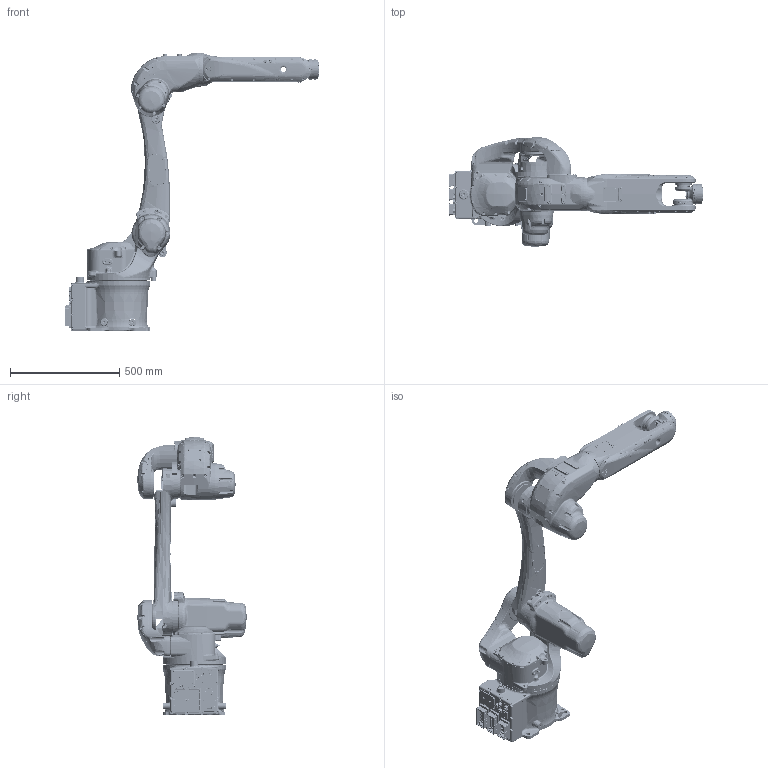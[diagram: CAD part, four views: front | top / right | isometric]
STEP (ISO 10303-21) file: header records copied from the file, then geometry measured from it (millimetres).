
FILE_DESCRIPTION(/* description */ (''),/* implementation_level */ '2;1');
FILE_NAME(/* name */ '00_UMMZ12H_ALL_ASSY v6.step',/* time_stamp */ '2022-11-09T16:05:42+03:00',/* author */ (''),/* organization */ (''),/* preprocessor_version */ 'ST-DEVELOPER v19.2',/* originating_system */ 'Autodesk Translation Framework v11.17.0.187',/* authorisation */ '');
FILE_SCHEMA (('AUTOMOTIVE_DESIGN { 1 0 10303 214 3 1 1 }'));
Length unit declared in the file: millimetre
Products named in the file (8): 00_UMMZ12H_ALL_ASSY; MZ12_S1_ASSY; MZ12H_A2_ASSY; MZ12_A2_ARM_ASSY; MZ12_A1_ASSY; MZ12H_WRIST1_Assy; MZ12H_WRIST2_Assy; MZ12H_WRIST3_Assy
Assembly tree (7 placements, depth 2):
  00_UMMZ12H_ALL_ASSY
    MZ12_S1_ASSY
    MZ12H_A2_ASSY
    MZ12_A2_ARM_ASSY
    MZ12_A1_ASSY
    MZ12H_WRIST1_Assy
    MZ12H_WRIST2_Assy
    MZ12H_WRIST3_Assy
Bounding box: 1168 x 501.03 x 1277 mm (x, y, z)
Volume: 66610502.2 mm3; surface area: 3220591.7 mm2
Topology: 32 solids, 251 shells, 15962 faces, 38493 edges, 23239 vertices
Faces by surface type: plane 6023, bspline 4320, cylinder 3328, cone 1087, torus 657, sphere 547
Full cylindrical faces by diameter (mm): 2 x12, 2.459 x24, 3 x76, 3.1 x30, 3.2 x12, 3.242 x13, 3.4 x26, 3.8 x10, 4 x74, 4.134 x26, 4.3 x42, 4.5 x58, 4.8 x2, 4.917 x4, 5 x45, 5.1 x1, 5.3 x22, 5.5 x82, 5.6 x5, 5.8 x16, 6 x4, 6.1 x4, 6.4 x30, 6.5 x8, 6.6 x1, 7 x111, 8 x27, 8.4 x4, 8.5 x36, 9 x27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
Entity records: 1022638 total; most frequent: CARTESIAN_POINT 672647, ORIENTED_EDGE 75756, DIRECTION 67526, EDGE_CURVE 37878, AXIS2_PLACEMENT_3D 26258, VERTEX_POINT 23239, EDGE_LOOP 17199, FACE_OUTER_BOUND 15962
